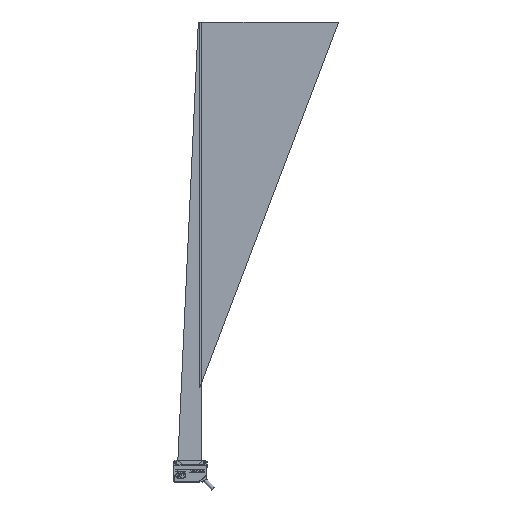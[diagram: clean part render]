
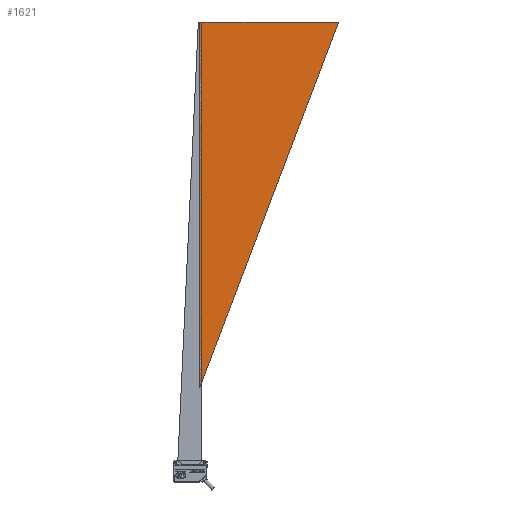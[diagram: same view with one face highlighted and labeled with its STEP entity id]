
A CAD part, front view. The second image highlights one B-rep face of the part: STEP entity #1621.
In plain terms, the highlighted planar face has unit normal (0, -1, 0).
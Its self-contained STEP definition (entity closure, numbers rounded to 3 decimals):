
#1463 = DIRECTION ( 'NONE',  ( 0., 1., 0. ) ) ;
#1621 = ADVANCED_FACE ( 'NONE', ( #1881 ), #64218, .F. ) ;
#1881 = FACE_OUTER_BOUND ( 'NONE', #54680, .T. ) ;
#4825 = CARTESIAN_POINT ( 'NONE',  ( 13., -1.5, 105. ) ) ;
#12072 = EDGE_CURVE ( 'NONE', #71317, #58594, #68625, .T. ) ;
#20273 = CARTESIAN_POINT ( 'NONE',  ( 13., -1.5, 605. ) ) ;
#25782 = LINE ( 'NONE', #4825, #84899 ) ;
#26402 = CARTESIAN_POINT ( 'NONE',  ( 203., -1.5, 605. ) ) ;
#26835 = CARTESIAN_POINT ( 'NONE',  ( 203., -1.5, 605. ) ) ;
#28362 = EDGE_CURVE ( 'NONE', #58594, #73327, #25782, .T. ) ;
#31541 = DIRECTION ( 'NONE',  ( 0., 0., 1. ) ) ;
#42387 = DIRECTION ( 'NONE',  ( -0.355, 0., -0.935 ) ) ;
#45897 = AXIS2_PLACEMENT_3D ( 'NONE', #71327, #1463, #56700 ) ;
#50069 = LINE ( 'NONE', #69206, #64424 ) ;
#54680 = EDGE_LOOP ( 'NONE', ( #73621, #71515, #67346 ) ) ;
#56700 = DIRECTION ( 'NONE',  ( 1., 0., 0. ) ) ;
#58594 = VERTEX_POINT ( 'NONE', #73294 ) ;
#64218 = PLANE ( 'NONE',  #45897 ) ;
#64424 = VECTOR ( 'NONE', #70063, 1000. ) ;
#67346 = ORIENTED_EDGE ( 'NONE', *, *, #80346, .F. ) ;
#68625 = LINE ( 'NONE', #26835, #78929 ) ;
#69206 = CARTESIAN_POINT ( 'NONE',  ( 13., -1.5, 605. ) ) ;
#70063 = DIRECTION ( 'NONE',  ( 1., 0., 0. ) ) ;
#71317 = VERTEX_POINT ( 'NONE', #26402 ) ;
#71327 = CARTESIAN_POINT ( 'NONE',  ( 0., -1.5, 0. ) ) ;
#71515 = ORIENTED_EDGE ( 'NONE', *, *, #12072, .F. ) ;
#73294 = CARTESIAN_POINT ( 'NONE',  ( 13., -1.5, 105. ) ) ;
#73327 = VERTEX_POINT ( 'NONE', #20273 ) ;
#73621 = ORIENTED_EDGE ( 'NONE', *, *, #28362, .F. ) ;
#78929 = VECTOR ( 'NONE', #42387, 1000. ) ;
#80346 = EDGE_CURVE ( 'NONE', #73327, #71317, #50069, .T. ) ;
#84899 = VECTOR ( 'NONE', #31541, 1000. ) ;
